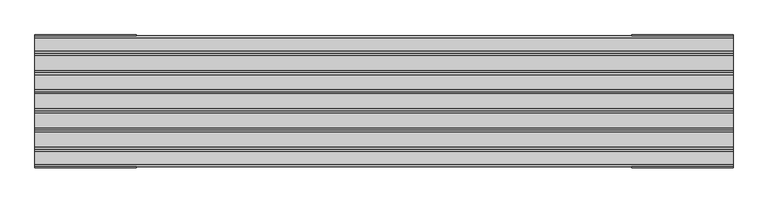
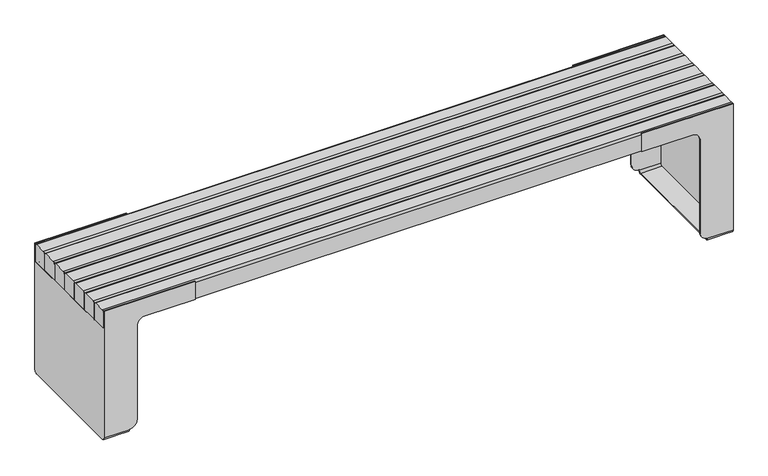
"""IFC4 building model written with IfcOpenShell, lengths in millimetres: furniture geometry, Roros Produkter - Nobel - Bench - 32680 : Roros Produkter - Nobel - Bench - 32680."""

from ifc_helpers import new_model, si_unit, point, frame, frame_2d, origin, place, context, project, spatial, polyline, circle_curve, trimmed, segment, composite_curve, outline, extrude, source, transform, mapped, element, save
from ifc_brep_helpers import plane_surface, cylinder_surface, revolved_surface, advanced_brep


def furniture_72da6de6(model_context):
    return source(origin(), model_context, "Body", "SolidModel", [
        advanced_brep(
        [(920.0000032, 190.4999943, 10.0), (920.0000032, 180.4999943, 0.0), (920.0000032, -180.5000057, 0.0), (920.0000032, -190.5000057, 10.0), (920.0000032, -190.5000057, 11.2), (920.0000032, -187.5000057, 11.2), (920.0000032, -187.5000057, 9.6519473), (920.0000032, -180.5000057, 2.6519473), (920.0000032, 180.4999958, 2.6519473), (920.0000032, 187.4999958, 9.6519473), (920.0000032, 187.4999958, 11.2), (920.0000032, 190.4999943, 11.2), (920.0000032, 180.4999958, 372.0000043), (920.0000032, -180.5000057, 372.0000043), (920.0000032, -187.5000057, 365.0000043), (920.0000032, -187.4999958, 375.0000029), (920.0000032, 187.4999958, 375.0000029), (920.0000032, 187.4999958, 365.0000043), (1000.0000075, 190.5000057, 435.0000106), (1000.0000075, 187.4999958, 435.0000106), (1000.0000075, 187.4999958, 375.0000029), (1000.0000075, -187.4999958, 375.0000029), (1000.0000075, -187.4999958, 435.0000106), (1000.0000075, -190.5000057, 435.0000106), (1000.0000075, -190.5000057, 10.0), (1000.0000075, -180.5000057, 0.0), (1000.0000075, 180.4999943, 0.0), (1000.0000075, 190.4999943, 10.0), (895.000003, 190.4999943, 36.2000001), (895.000003, 190.4999943, 350.0000029), (870.000003, 190.4999943, 375.0000029), (710.0000125, 190.4999943, 375.0000029), (710.0000125, 190.4999943, 435.0000106), (710.0000125, -190.5000057, 435.0000106), (710.0000125, -190.5000057, 375.0000029), (870.000003, -190.5000057, 375.0000029), (895.000003, -190.5000057, 350.0000029), (895.000003, -190.5000057, 36.2000001), (895.000003, -187.4999958, 36.2000001), (895.000003, -187.4999958, 350.0000029), (870.000003, -187.4999958, 375.0000029), (710.0000125, -187.4999958, 375.0000029), (710.0000125, -187.4999958, 435.0000106), (895.000003, 187.4999958, 36.2000001), (895.000003, 187.4999958, 350.0000029), (870.000003, 187.4999958, 375.0000029), (710.0000125, 187.4999958, 375.0000029), (710.0000125, 187.4999958, 435.0000106), (989.0000078, 187.4999958, 365.0000043), (989.0000078, 187.4999958, 9.6519473), (989.0000078, 180.4999958, 2.6519473), (989.0000078, -180.5000057, 2.6519473), (989.0000078, -187.5000057, 9.6519473), (989.0000078, -187.5000057, 365.0000043), (989.0000078, -180.5000057, 372.0000043), (989.0000078, 180.4999958, 372.0000043)],
        [
            (0, 1, circle_curve(frame((920.0000032, 180.4999943, 10.0), z_axis=(-1.0, 0.0, 0.0), x_axis=(0.0, -1.0, 0.0)), 10.0)),
            (1, 2),
            (2, 3, circle_curve(frame((920.0000032, -180.5000057, 10.0), z_axis=(-1.0, 0.0, 0.0), x_axis=(0.0, -1.0, 0.0)), 10.0)),
            (3, 4),
            (4, 5),
            (5, 6),
            (6, 7, circle_curve(frame((920.0000032, -180.5000057, 9.6519473), z_axis=(1.0, 0.0, 0.0), x_axis=(0.0, -1.0, 0.0)), 7.0)),
            (7, 8),
            (8, 9, circle_curve(frame((920.0000032, 180.4999958, 9.6519473), z_axis=(1.0, 0.0, 0.0), x_axis=(0.0, -1.0, 0.0)), 7.0)),
            (9, 10),
            (10, 11),
            (11, 0),
            (12, 13),
            (13, 14, circle_curve(frame((920.0000032, -180.5000057, 365.0000043), z_axis=(1.0, 0.0, 0.0), x_axis=(0.0, -1.0, 0.0)), 7.0)),
            (14, 15),
            (15, 16),
            (16, 17),
            (17, 12, circle_curve(frame((920.0000032, 180.4999958, 365.0000043), z_axis=(1.0, 0.0, 0.0), x_axis=(0.0, -1.0, 0.0)), 7.0)),
            (18, 19),
            (19, 20),
            (20, 21),
            (21, 22),
            (22, 23),
            (23, 24),
            (24, 25, circle_curve(frame((1000.0000075, -180.5000057, 10.0), z_axis=(1.0, 0.0, 0.0), x_axis=(0.0, -1.0, 0.0)), 10.0)),
            (25, 26),
            (26, 27, circle_curve(frame((1000.0000075, 180.4999943, 10.0), z_axis=(1.0, 0.0, 0.0), x_axis=(0.0, -1.0, 0.0)), 10.0)),
            (27, 18),
            (27, 0),
            (11, 28, circle_curve(frame((920.0000032, 190.4999943, 36.2000001), z_axis=(0.0, 1.0, 0.0), x_axis=(-1.0, 0.0, 0.0)), 25.0000002)),
            (28, 29),
            (29, 30, circle_curve(frame((870.000003, 190.4999943, 350.0000029), z_axis=(0.0, -1.0, 0.0), x_axis=(-1.0, 0.0, 0.0)), 25.0)),
            (30, 31),
            (31, 32),
            (32, 18),
            (15, 21),
            (20, 16),
            (3, 24),
            (23, 33),
            (33, 34),
            (34, 35),
            (35, 36, circle_curve(frame((870.000003, -190.5000057, 350.0000029), z_axis=(0.0, 1.0, 0.0), x_axis=(-1.0, 0.0, 0.0)), 25.0)),
            (36, 37),
            (37, 4, circle_curve(frame((920.0000032, -190.5000057, 36.2000001), z_axis=(0.0, -1.0, 0.0), x_axis=(-1.0, 0.0, 0.0)), 25.0000002)),
            (2, 25),
            (1, 26),
            (37, 38),
            (38, 5, circle_curve(frame((920.0000032, -187.4999958, 36.2000001), z_axis=(0.0, -1.0, 0.0), x_axis=(-1.0, 0.0, 0.0)), 25.0000002)),
            (36, 39),
            (39, 38),
            (35, 40),
            (40, 39, circle_curve(frame((870.000003, -187.4999958, 350.0000029), z_axis=(0.0, 1.0, 0.0), x_axis=(-1.0, 0.0, 0.0)), 25.0)),
            (34, 41),
            (41, 40),
            (33, 42),
            (42, 41),
            (22, 42),
            (10, 43, circle_curve(frame((920.0000032, 187.4999958, 36.2000001), z_axis=(0.0, 1.0, 0.0), x_axis=(-1.0, 0.0, 0.0)), 25.0000002)),
            (43, 28),
            (43, 44),
            (44, 29),
            (44, 45, circle_curve(frame((870.000003, 187.4999958, 350.0000029), z_axis=(0.0, -1.0, 0.0), x_axis=(-1.0, 0.0, 0.0)), 25.0)),
            (45, 30),
            (45, 46),
            (46, 31),
            (46, 47),
            (47, 32),
            (47, 19),
            (48, 49),
            (49, 50, circle_curve(frame((989.0000078, 180.4999958, 9.6519473), z_axis=(-1.0, 0.0, 0.0), x_axis=(0.0, -1.0, 0.0)), 7.0)),
            (50, 51),
            (51, 52, circle_curve(frame((989.0000078, -180.5000057, 9.6519473), z_axis=(-1.0, 0.0, 0.0), x_axis=(0.0, -1.0, 0.0)), 7.0)),
            (52, 53),
            (53, 54, circle_curve(frame((989.0000078, -180.5000057, 365.0000043), z_axis=(-1.0, 0.0, 0.0), x_axis=(0.0, -1.0, 0.0)), 7.0)),
            (54, 55),
            (55, 48, circle_curve(frame((989.0000078, 180.4999958, 365.0000043), z_axis=(-1.0, 0.0, 0.0), x_axis=(0.0, -1.0, 0.0)), 7.0)),
            (54, 13),
            (12, 55),
            (52, 6),
            (14, 53),
            (50, 8),
            (7, 51),
            (48, 17),
            (9, 49),
        ],
        [
            plane_surface(frame((920.0000032, 170.4999943, 10.0), z_axis=(-1.0, 0.0, 0.0), x_axis=(0.0, 0.0, 1.0))),
            plane_surface(frame((1000.0000075, 170.4999943, 10.0), z_axis=(1.0, 0.0, 0.0), x_axis=(0.0, 0.0, -1.0))),
            plane_surface(frame((920.0000032, 190.4999943, 375.0000029), z_axis=(0.0, 1.0, 0.0), x_axis=(1.0, 0.0, 0.0))),
            plane_surface(frame((920.0000032, -190.5000057, 375.0000029), z_axis=(0.0, 0.0, 1.0), x_axis=(1.0, 0.0, 0.0))),
            plane_surface(frame((920.0000032, -190.5000057, 10.0), z_axis=(0.0, -1.0, 0.0), x_axis=(1.0, 0.0, 0.0))),
            cylinder_surface(frame((1000.0000075, -180.5000057, 10.0), z_axis=(-1.0, 0.0, 0.0), x_axis=(0.0, -1.0, 0.0)), 10.0),
            plane_surface(frame((920.0000032, 180.4999943, 0.0), z_axis=(0.0, 0.0, -1.0), x_axis=(1.0, 0.0, 0.0))),
            cylinder_surface(frame((1000.0000075, 180.4999943, 10.0), z_axis=(-1.0, 0.0, 0.0), x_axis=(0.0, -1.0, 0.0)), 10.0),
            cylinder_surface(frame((920.0000032, -187.4999958, 36.2000001), z_axis=(0.0, -1.0, 0.0), x_axis=(-1.0, 0.0, 0.0)), 25.0000002),
            plane_surface(frame((895.000003, -190.5000057, 350.0000029), z_axis=(-1.0, 0.0, 0.0), x_axis=(0.0, 1.0, 0.0))),
            revolved_surface(polyline([(845.000003, -187.4999958, 350.0000029), (845.000003, -190.5000057, 350.0000029)]), (870.000003, -187.4999958, 350.0000029), (0.0, 1.0, 0.0)),
            plane_surface(frame((710.0000125, -190.5000057, 375.0000029), z_axis=(0.0, 0.0, -1.0), x_axis=(0.0, 1.0, 0.0))),
            plane_surface(frame((710.0000125, -190.5000057, 435.0000106), z_axis=(-1.0, 0.0, 0.0), x_axis=(0.0, 1.0, 0.0))),
            plane_surface(frame((1000.0000075, -190.5000057, 435.0000106), z_axis=(0.0, 0.0, 1.0), x_axis=(0.0, 1.0, 0.0))),
            cylinder_surface(frame((920.0000032, 187.4999958, 36.2000001), z_axis=(0.0, 1.0, 0.0), x_axis=(-1.0, 0.0, 0.0)), 25.0000002),
            plane_surface(frame((895.000003, 190.5000057, 36.2000001), z_axis=(-1.0, 0.0, 0.0), x_axis=(0.0, -1.0, 0.0))),
            revolved_surface(polyline([(845.000003, 187.4999958, 350.0000029), (845.000003, 190.4999943, 350.0000029)]), (870.000003, 187.4999958, 350.0000029), (0.0, -1.0, 0.0)),
            plane_surface(frame((870.000003, 190.5000057, 375.0000029), z_axis=(0.0, 0.0, -1.0), x_axis=(0.0, -1.0, 0.0))),
            plane_surface(frame((710.0000125, 190.5000057, 375.0000029), z_axis=(-1.0, 0.0, 0.0), x_axis=(0.0, -1.0, 0.0))),
            plane_surface(frame((710.0000125, 190.5000057, 435.0000106), z_axis=(0.0, 0.0, 1.0), x_axis=(0.0, -1.0, 0.0))),
            plane_surface(frame((989.0000078, 187.4999958, 11.3137092), z_axis=(-1.0, 0.0, 0.0), x_axis=(0.0, 0.0, 1.0))),
            plane_surface(frame((870.0000119, -180.5000057, 372.0000043), z_axis=(0.0, 0.0, -1.0), x_axis=(1.0, 0.0, 0.0))),
            plane_surface(frame((870.0000119, -187.5000057, 9.6519473), z_axis=(0.0, 1.0, 0.0), x_axis=(1.0, 0.0, 0.0))),
            plane_surface(frame((870.0000119, 180.4999958, 2.6519473), z_axis=(0.0, 0.0, 1.0), x_axis=(1.0, 0.0, 0.0))),
            plane_surface(frame((870.0000119, 187.4999958, 365.0000043), z_axis=(0.0, -1.0, 0.0), x_axis=(1.0, 0.0, 0.0))),
            revolved_surface(polyline([(920.0000032, 173.4999958, 365.0000043), (989.0000078, 173.4999958, 365.0000043)]), (989.0000078, 180.4999958, 365.0000043), (-1.0, 0.0, 0.0)),
            revolved_surface(polyline([(920.0000032, -187.5000057, 365.0000043), (989.0000078, -187.5000057, 365.0000043)]), (989.0000078, -180.5000057, 365.0000043), (-1.0, 0.0, 0.0)),
            revolved_surface(polyline([(920.0000032, -187.5000057, 9.6519473), (989.0000078, -187.5000057, 9.6519473)]), (989.0000078, -180.5000057, 9.6519473), (-1.0, 0.0, 0.0)),
            revolved_surface(polyline([(920.0000032, 173.4999958, 9.6519473), (989.0000078, 173.4999958, 9.6519473)]), (989.0000078, 180.4999958, 9.6519473), (-1.0, 0.0, 0.0)),
        ],
        [
            (0, [[1, 2, 3, 4, 5, 6, 7, 8, 9, 10, 11, 12]]),
            (0, [[13, 14, 15, 16, 17, 18]]),
            (1, [[19, 20, 21, 22, 23, 24, 25, 26, 27, 28]]),
            (2, [[-28, 29, -12, 30, 31, 32, 33, 34, 35]]),
            (3, [[36, -21, 37, -16]]),
            (4, [[38, -24, 39, 40, 41, 42, 43, 44, -4]]),
            (5, [[-3, 45, -25, -38]]),
            (6, [[-2, 46, -26, -45]]),
            (7, [[-1, -29, -27, -46]]),
            (8, [[-44, 47, 48, -5]]),
            (9, [[-43, 49, 50, -47]]),
            (10, [[-42, 51, 52, -49]]),
            (11, [[-41, 53, 54, -51]]),
            (12, [[-40, 55, 56, -53]]),
            (13, [[-39, -23, 57, -55]]),
            (14, [[-30, -11, 58, 59]]),
            (15, [[-31, -59, 60, 61]]),
            (16, [[-32, -61, 62, 63]]),
            (17, [[-33, -63, 64, 65]]),
            (18, [[-34, -65, 66, 67]]),
            (19, [[-35, -67, 68, -19]]),
            (20, [[69, 70, 71, 72, 73, 74, 75, 76]]),
            (21, [[-75, 77, -13, 78]]),
            (22, [[-73, 79, -6, -48, -50, -52, -54, -56, -57, -22, -36, -15, 80]]),
            (23, [[-71, 81, -8, 82]]),
            (24, [[-69, 83, -17, -37, -20, -68, -66, -64, -62, -60, -58, -10, 84]]),
            (25, [[-76, -78, -18, -83]]),
            (26, [[-74, -80, -14, -77]]),
            (27, [[-72, -82, -7, -79]]),
            (28, [[-70, -84, -9, -81]]),
        ],
    ),
        advanced_brep(
        [(-920.0000032, -190.5000057, 10.0), (-920.0000032, -180.5000057, 0.0), (-920.0000032, 180.4999943, 0.0), (-920.0000032, 190.4999943, 10.0), (-920.0000032, 190.4999943, 11.2), (-920.0000032, 187.4999958, 11.2), (-920.0000032, 187.4999958, 9.6519473), (-920.0000032, 180.4999958, 2.6519473), (-920.0000032, -180.5000057, 2.6519473), (-920.0000032, -187.5000057, 9.6519473), (-920.0000032, -187.5000057, 11.2), (-920.0000032, -190.5000057, 11.2), (-920.0000032, -180.5000057, 372.0000043), (-920.0000032, 180.4999958, 372.0000043), (-920.0000032, 187.4999958, 365.0000043), (-920.0000032, 187.4999958, 375.0000029), (-920.0000032, -187.4999958, 375.0000029), (-920.0000032, -187.4999958, 365.0000043), (-1000.0000075, 190.4999943, 10.0), (-1000.0000075, 180.4999943, 0.0), (-1000.0000075, -180.5000057, 0.0), (-1000.0000075, -190.5000057, 10.0), (-1000.0000075, -190.5000057, 435.0000106), (-1000.0000075, -187.4999958, 435.0000106), (-1000.0000075, -187.4999958, 375.0000029), (-1000.0000075, 187.4999958, 375.0000029), (-1000.0000075, 187.4999958, 435.0000106), (-1000.0000075, 190.5000057, 435.0000106), (-710.0000125, 190.4999943, 435.0000106), (-710.0000125, 190.4999943, 375.0000029), (-870.000003, 190.4999943, 375.0000029), (-895.000003, 190.4999943, 350.0000029), (-895.000003, 190.4999943, 36.2000001), (-895.000003, -190.5000057, 36.2000001), (-895.000003, -190.5000057, 350.0000029), (-870.000003, -190.5000057, 375.0000029), (-710.0000125, -190.5000057, 375.0000029), (-710.0000125, -190.5000057, 435.0000106), (-895.000003, -187.4999958, 36.2000001), (-895.000003, -187.4999958, 350.0000029), (-870.000003, -187.4999958, 375.0000029), (-710.0000125, -187.4999958, 375.0000029), (-710.0000125, -187.4999958, 435.0000106), (-895.000003, 187.4999958, 36.2000001), (-895.000003, 187.4999958, 350.0000029), (-870.000003, 187.4999958, 375.0000029), (-710.0000125, 187.4999958, 375.0000029), (-710.0000125, 187.4999958, 435.0000106), (-989.0000078, 187.4999958, 365.0000043), (-989.0000078, 180.4999958, 372.0000043), (-989.0000078, -180.5000057, 372.0000043), (-989.0000078, -187.5000057, 365.0000043), (-989.0000078, -187.5000057, 9.6519473), (-989.0000078, -180.5000057, 2.6519473), (-989.0000078, 180.4999958, 2.6519473), (-989.0000078, 187.4999958, 9.6519473)],
        [
            (0, 1, circle_curve(frame((-920.0000032, -180.5000057, 10.0), z_axis=(1.0, 0.0, 0.0), x_axis=(0.0, -1.0, 0.0)), 10.0)),
            (1, 2),
            (2, 3, circle_curve(frame((-920.0000032, 180.4999943, 10.0), z_axis=(1.0, 0.0, 0.0), x_axis=(0.0, -1.0, 0.0)), 10.0)),
            (3, 4),
            (4, 5),
            (5, 6),
            (6, 7, circle_curve(frame((-920.0000032, 180.4999958, 9.6519473), z_axis=(-1.0, 0.0, 0.0), x_axis=(0.0, -1.0, 0.0)), 7.0)),
            (7, 8),
            (8, 9, circle_curve(frame((-920.0000032, -180.5000057, 9.6519473), z_axis=(-1.0, 0.0, 0.0), x_axis=(0.0, -1.0, 0.0)), 7.0)),
            (9, 10),
            (10, 11),
            (11, 0),
            (12, 13),
            (13, 14, circle_curve(frame((-920.0000032, 180.4999958, 365.0000043), z_axis=(-1.0, 0.0, 0.0), x_axis=(0.0, -1.0, 0.0)), 7.0)),
            (14, 15),
            (15, 16),
            (16, 17),
            (17, 12, circle_curve(frame((-920.0000032, -180.5000057, 365.0000043), z_axis=(-1.0, 0.0, 0.0), x_axis=(0.0, -1.0, 0.0)), 7.0)),
            (18, 19, circle_curve(frame((-1000.0000075, 180.4999943, 10.0), z_axis=(-1.0, 0.0, 0.0), x_axis=(0.0, -1.0, 0.0)), 10.0)),
            (19, 20),
            (20, 21, circle_curve(frame((-1000.0000075, -180.5000057, 10.0), z_axis=(-1.0, 0.0, 0.0), x_axis=(0.0, -1.0, 0.0)), 10.0)),
            (21, 22),
            (22, 23),
            (23, 24),
            (24, 25),
            (25, 26),
            (26, 27),
            (27, 18),
            (27, 28),
            (28, 29),
            (29, 30),
            (30, 31, circle_curve(frame((-870.000003, 190.4999943, 350.0000029), z_axis=(0.0, -1.0, 0.0), x_axis=(1.0, 0.0, 0.0)), 25.0)),
            (31, 32),
            (32, 4, circle_curve(frame((-920.0000032, 190.4999943, 36.2000001), z_axis=(0.0, 1.0, 0.0), x_axis=(1.0, 0.0, 0.0)), 25.0000002)),
            (3, 18),
            (24, 16),
            (15, 25),
            (21, 0),
            (11, 33, circle_curve(frame((-920.0000032, -190.5000057, 36.2000001), z_axis=(0.0, -1.0, 0.0), x_axis=(1.0, 0.0, 0.0)), 25.0000002)),
            (33, 34),
            (34, 35, circle_curve(frame((-870.000003, -190.5000057, 350.0000029), z_axis=(0.0, 1.0, 0.0), x_axis=(1.0, 0.0, 0.0)), 25.0)),
            (35, 36),
            (36, 37),
            (37, 22),
            (20, 1),
            (19, 2),
            (10, 38, circle_curve(frame((-920.0000032, -187.4999958, 36.2000001), z_axis=(0.0, -1.0, 0.0), x_axis=(1.0, 0.0, 0.0)), 25.0000002)),
            (38, 33),
            (38, 39),
            (39, 34),
            (39, 40, circle_curve(frame((-870.000003, -187.4999958, 350.0000029), z_axis=(0.0, 1.0, 0.0), x_axis=(1.0, 0.0, 0.0)), 25.0)),
            (40, 35),
            (40, 41),
            (41, 36),
            (41, 42),
            (42, 37),
            (42, 23),
            (32, 43),
            (43, 5, circle_curve(frame((-920.0000032, 187.4999958, 36.2000001), z_axis=(0.0, 1.0, 0.0), x_axis=(1.0, 0.0, 0.0)), 25.0000002)),
            (31, 44),
            (44, 43),
            (30, 45),
            (45, 44, circle_curve(frame((-870.000003, 187.4999958, 350.0000029), z_axis=(0.0, -1.0, 0.0), x_axis=(1.0, 0.0, 0.0)), 25.0)),
            (29, 46),
            (46, 45),
            (28, 47),
            (47, 46),
            (26, 47),
            (48, 49, circle_curve(frame((-989.0000078, 180.4999958, 365.0000043), z_axis=(1.0, 0.0, 0.0), x_axis=(0.0, -1.0, 0.0)), 7.0)),
            (49, 50),
            (50, 51, circle_curve(frame((-989.0000078, -180.5000057, 365.0000043), z_axis=(1.0, 0.0, 0.0), x_axis=(0.0, -1.0, 0.0)), 7.0)),
            (51, 52),
            (52, 53, circle_curve(frame((-989.0000078, -180.5000057, 9.6519473), z_axis=(1.0, 0.0, 0.0), x_axis=(0.0, -1.0, 0.0)), 7.0)),
            (53, 54),
            (54, 55, circle_curve(frame((-989.0000078, 180.4999958, 9.6519473), z_axis=(1.0, 0.0, 0.0), x_axis=(0.0, -1.0, 0.0)), 7.0)),
            (55, 48),
            (49, 13),
            (12, 50),
            (51, 17),
            (9, 52),
            (53, 8),
            (7, 54),
            (55, 6),
            (14, 48),
        ],
        [
            plane_surface(frame((-920.0000032, 190.4999943, 375.0000029), z_axis=(1.0, 0.0, 0.0), x_axis=(0.0, 0.0, 1.0))),
            plane_surface(frame((-1000.0000075, 190.4999943, 375.0000029), z_axis=(-1.0, 0.0, 0.0), x_axis=(0.0, 0.0, -1.0))),
            plane_surface(frame((-920.0000032, 190.4999943, 10.0), z_axis=(0.0, 1.0, 0.0), x_axis=(-1.0, 0.0, 0.0))),
            plane_surface(frame((-920.0000032, 190.4999943, 375.0000029), z_axis=(0.0, 0.0, 1.0), x_axis=(-1.0, 0.0, 0.0))),
            plane_surface(frame((-920.0000032, -190.5000057, 375.0000029), z_axis=(0.0, -1.0, 0.0), x_axis=(-1.0, 0.0, 0.0))),
            cylinder_surface(frame((-1000.0000075, -180.5000057, 10.0), z_axis=(1.0, 0.0, 0.0), x_axis=(0.0, -1.0, 0.0)), 10.0),
            plane_surface(frame((-920.0000032, -180.5000057, 0.0), z_axis=(0.0, 0.0, -1.0), x_axis=(-1.0, 0.0, 0.0))),
            cylinder_surface(frame((-1000.0000075, 180.4999943, 10.0), z_axis=(1.0, 0.0, 0.0), x_axis=(0.0, -1.0, 0.0)), 10.0),
            cylinder_surface(frame((-920.0000032, -187.4999958, 36.2000001), z_axis=(0.0, -1.0, 0.0), x_axis=(1.0, 0.0, 0.0)), 25.0000002),
            plane_surface(frame((-895.000003, -190.5000057, 36.2000001), z_axis=(1.0, 0.0, 0.0), x_axis=(0.0, 1.0, 0.0))),
            revolved_surface(polyline([(-845.000003, -187.4999958, 350.0000029), (-845.000003, -190.5000057, 350.0000029)]), (-870.000003, -187.4999958, 350.0000029), (0.0, 1.0, 0.0)),
            plane_surface(frame((-870.000003, -190.5000057, 375.0000029), z_axis=(0.0, 0.0, -1.0), x_axis=(0.0, 1.0, 0.0))),
            plane_surface(frame((-710.0000125, -190.5000057, 375.0000029), z_axis=(1.0, 0.0, 0.0), x_axis=(0.0, 1.0, 0.0))),
            plane_surface(frame((-710.0000125, -190.5000057, 435.0000106), z_axis=(0.0, 0.0, 1.0), x_axis=(0.0, 1.0, 0.0))),
            cylinder_surface(frame((-920.0000032, 187.4999958, 36.2000001), z_axis=(0.0, 1.0, 0.0), x_axis=(1.0, 0.0, 0.0)), 25.0000002),
            plane_surface(frame((-895.000003, 190.5000057, 350.0000029), z_axis=(1.0, 0.0, 0.0), x_axis=(0.0, -1.0, 0.0))),
            revolved_surface(polyline([(-845.000003, 187.4999958, 350.0000029), (-845.000003, 190.4999943, 350.0000029)]), (-870.000003, 187.4999958, 350.0000029), (0.0, -1.0, 0.0)),
            plane_surface(frame((-710.0000125, 190.5000057, 375.0000029), z_axis=(0.0, 0.0, -1.0), x_axis=(0.0, -1.0, 0.0))),
            plane_surface(frame((-710.0000125, 190.5000057, 435.0000106), z_axis=(1.0, 0.0, 0.0), x_axis=(0.0, -1.0, 0.0))),
            plane_surface(frame((-1000.0000075, 190.5000057, 435.0000106), z_axis=(0.0, 0.0, 1.0), x_axis=(0.0, -1.0, 0.0))),
            plane_surface(frame((-989.0000078, 173.4999958, 365.0000043), z_axis=(1.0, 0.0, 0.0), x_axis=(0.0, 0.0, 1.0))),
            plane_surface(frame((-870.0000119, 180.4999958, 372.0000043), z_axis=(0.0, 0.0, -1.0), x_axis=(-1.0, 0.0, 0.0))),
            plane_surface(frame((-870.0000119, -187.5000057, 365.0000043), z_axis=(0.0, 1.0, 0.0), x_axis=(-1.0, 0.0, 0.0))),
            plane_surface(frame((-870.0000119, -180.5000057, 2.6519473), z_axis=(0.0, 0.0, 1.0), x_axis=(-1.0, 0.0, 0.0))),
            plane_surface(frame((-870.0000119, 187.4999958, 9.6519473), z_axis=(0.0, -1.0, 0.0), x_axis=(-1.0, 0.0, 0.0))),
            revolved_surface(polyline([(-920.0000032, 173.4999958, 365.0000043), (-989.0000078, 173.4999958, 365.0000043)]), (-989.0000078, 180.4999958, 365.0000043), (1.0, 0.0, 0.0)),
            revolved_surface(polyline([(-920.0000032, -187.5000057, 365.0000043), (-989.0000078, -187.5000057, 365.0000043)]), (-989.0000078, -180.5000057, 365.0000043), (1.0, 0.0, 0.0)),
            revolved_surface(polyline([(-920.0000032, -187.5000057, 9.6519473), (-989.0000078, -187.5000057, 9.6519473)]), (-989.0000078, -180.5000057, 9.6519473), (1.0, 0.0, 0.0)),
            revolved_surface(polyline([(-920.0000032, 173.4999958, 9.6519473), (-989.0000078, 173.4999958, 9.6519473)]), (-989.0000078, 180.4999958, 9.6519473), (1.0, 0.0, 0.0)),
        ],
        [
            (0, [[1, 2, 3, 4, 5, 6, 7, 8, 9, 10, 11, 12]]),
            (0, [[13, 14, 15, 16, 17, 18]]),
            (1, [[19, 20, 21, 22, 23, 24, 25, 26, 27, 28]]),
            (2, [[-28, 29, 30, 31, 32, 33, 34, -4, 35]]),
            (3, [[36, -16, 37, -25]]),
            (4, [[38, -12, 39, 40, 41, 42, 43, 44, -22]]),
            (5, [[-1, -38, -21, 45]]),
            (6, [[-2, -45, -20, 46]]),
            (7, [[-3, -46, -19, -35]]),
            (8, [[-39, -11, 47, 48]]),
            (9, [[-40, -48, 49, 50]]),
            (10, [[-41, -50, 51, 52]]),
            (11, [[-42, -52, 53, 54]]),
            (12, [[-43, -54, 55, 56]]),
            (13, [[-44, -56, 57, -23]]),
            (14, [[-34, 58, 59, -5]]),
            (15, [[-33, 60, 61, -58]]),
            (16, [[-32, 62, 63, -60]]),
            (17, [[-31, 64, 65, -62]]),
            (18, [[-30, 66, 67, -64]]),
            (19, [[-29, -27, 68, -66]]),
            (20, [[69, 70, 71, 72, 73, 74, 75, 76]]),
            (21, [[-70, 77, -13, 78]]),
            (22, [[-72, 79, -17, -36, -24, -57, -55, -53, -51, -49, -47, -10, 80]]),
            (23, [[-74, 81, -8, 82]]),
            (24, [[-76, 83, -6, -59, -61, -63, -65, -67, -68, -26, -37, -15, 84]]),
            (25, [[-69, -84, -14, -77]]),
            (26, [[-71, -78, -18, -79]]),
            (27, [[-73, -80, -9, -81]]),
            (28, [[-75, -82, -7, -83]]),
        ],
    ),
        extrude(outline(composite_curve([segment(trimmed(circle_curve(frame_2d((88.4999913, 429.0000106)), 6.0), [point((82.4999913, 429.0000106))], [point((88.4999913, 435.0000106))], False, "CARTESIAN"), True, "CONTINUOUS"), segment(polyline([(88.4999913, 435.0000106), (131.4849653, 435.0000106)]), True, "CONTINUOUS"), segment(trimmed(circle_curve(frame_2d((131.4849653, 428.9849806)), 6.01503), [point((131.4849653, 435.0000106))], [point((137.4999954, 428.9849806))], False, "CARTESIAN"), True, "CONTINUOUS"), segment(polyline([(137.4999954, 428.9849806), (137.4999954, 375.0000029), (82.4999913, 375.0000029), (82.4999913, 429.0000106)]), True, "CONTINUOUS")], self_intersect=False)), frame((-1000.0000075, 0.0, 0.0), z_axis=(1.0, 0.0, 0.0), x_axis=(0.0, 1.0, 0.0)), (0.0, 0.0, 1.0), 2000.0000153),
        extrude(outline(composite_curve([segment(trimmed(circle_curve(frame_2d((-21.4999963, 429.0000106)), 6.0), [point((-27.4999963, 429.0000106))], [point((-21.4999963, 435.0000106))], False, "CARTESIAN"), True, "CONTINUOUS"), segment(polyline([(-21.4999963, 435.0000106), (21.4849663, 435.0000106)]), True, "CONTINUOUS"), segment(trimmed(circle_curve(frame_2d((21.4849663, 428.9849806)), 6.01503), [point((21.4849663, 435.0000106))], [point((27.4999963, 428.9849806))], False, "CARTESIAN"), True, "CONTINUOUS"), segment(polyline([(27.4999963, 428.9849806), (27.4999963, 375.0000029), (-27.4999963, 375.0000029), (-27.4999963, 429.0000106)]), True, "CONTINUOUS")], self_intersect=False)), frame((-1000.0000075, 0.0, 0.0), z_axis=(1.0, 0.0, 0.0), x_axis=(0.0, 1.0, 0.0)), (0.0, 0.0, 1.0), 2000.0000153),
        extrude(outline(composite_curve([segment(trimmed(circle_curve(frame_2d((-131.4999954, 429.0000106)), 6.0), [point((-137.4999954, 429.0000106))], [point((-131.4999954, 435.0000106))], False, "CARTESIAN"), True, "CONTINUOUS"), segment(polyline([(-131.4999954, 435.0000106), (-88.5150214, 435.0000106)]), True, "CONTINUOUS"), segment(trimmed(circle_curve(frame_2d((-88.5150214, 428.9849806)), 6.01503), [point((-88.5150214, 435.0000106))], [point((-82.4999913, 428.9849806))], False, "CARTESIAN"), True, "CONTINUOUS"), segment(polyline([(-82.4999913, 428.9849806), (-82.4999913, 375.0000029), (-137.4999954, 375.0000029), (-137.4999954, 429.0000106)]), True, "CONTINUOUS")], self_intersect=False)), frame((-1000.0000075, 0.0, 0.0), z_axis=(1.0, 0.0, 0.0), x_axis=(0.0, 1.0, 0.0)), (0.0, 0.0, 1.0), 2000.0000153),
        extrude(outline(composite_curve([segment(trimmed(circle_curve(frame_2d((143.4999954, 429.0000106)), 6.0), [point((137.4999954, 429.0000106))], [point((143.4999954, 435.0000106))], False, "CARTESIAN"), True, "CONTINUOUS"), segment(polyline([(143.4999954, 435.0000106), (181.4849657, 435.0000106)]), True, "CONTINUOUS"), segment(trimmed(circle_curve(frame_2d((181.4849657, 428.9849806)), 6.01503), [point((181.4849657, 435.0000106))], [point((187.4999958, 428.9849806))], False, "CARTESIAN"), True, "CONTINUOUS"), segment(polyline([(187.4999958, 428.9849806), (187.4999958, 375.0000029), (137.4999954, 375.0000029), (137.4999954, 429.0000106)]), True, "CONTINUOUS")], self_intersect=False)), frame((-1000.0000075, 0.0, 0.0), z_axis=(1.0, 0.0, 0.0), x_axis=(0.0, 1.0, 0.0)), (0.0, 0.0, 1.0), 2000.0000153),
        extrude(outline(composite_curve([segment(trimmed(circle_curve(frame_2d((76.4999913, 429.0000106)), 6.0), [point((76.4999913, 435.0000106))], [point((82.4999913, 429.0000106))], False, "CARTESIAN"), True, "CONTINUOUS"), segment(polyline([(82.4999913, 429.0000106), (82.4999913, 375.0000029), (27.4999963, 375.0000029), (27.4999963, 429.0000106)]), True, "CONTINUOUS"), segment(trimmed(circle_curve(frame_2d((33.4999963, 429.0000106)), 6.0), [point((27.4999963, 429.0000106))], [point((33.4999963, 435.0000106))], False, "CARTESIAN"), True, "CONTINUOUS"), segment(polyline([(33.4999963, 435.0000106), (76.4999913, 435.0000106)]), True, "CONTINUOUS")], self_intersect=False)), frame((-1000.0000075, 0.0, 0.0), z_axis=(1.0, 0.0, 0.0), x_axis=(0.0, 1.0, 0.0)), (0.0, 0.0, 1.0), 2000.0000153),
        extrude(outline(composite_curve([segment(polyline([(-27.4999963, 429.0000106), (-27.4999963, 375.0000029), (-82.4999913, 375.0000029), (-82.4999913, 429.0000106)]), True, "CONTINUOUS"), segment(trimmed(circle_curve(frame_2d((-76.4999913, 429.0000106)), 6.0), [point((-82.4999913, 429.0000106))], [point((-76.4999913, 435.0000106))], False, "CARTESIAN"), True, "CONTINUOUS"), segment(polyline([(-76.4999913, 435.0000106), (-33.4999963, 435.0000106)]), True, "CONTINUOUS"), segment(trimmed(circle_curve(frame_2d((-33.4999963, 429.0000106)), 6.0), [point((-33.4999963, 435.0000106))], [point((-27.4999963, 429.0000106))], False, "CARTESIAN"), True, "CONTINUOUS")], self_intersect=False)), frame((-1000.0000075, 0.0, 0.0), z_axis=(1.0, 0.0, 0.0), x_axis=(0.0, 1.0, 0.0)), (0.0, 0.0, 1.0), 2000.0000153),
        extrude(outline(composite_curve([segment(polyline([(-137.4999954, 429.0000106), (-137.4999954, 375.0000029), (-187.4999958, 375.0000029), (-187.4999958, 429.0000106)]), True, "CONTINUOUS"), segment(trimmed(circle_curve(frame_2d((-181.4999958, 429.0000106)), 6.0), [point((-187.4999958, 429.0000106))], [point((-181.4999958, 435.0000106))], False, "CARTESIAN"), True, "CONTINUOUS"), segment(polyline([(-181.4999958, 435.0000106), (-143.4999954, 435.0000106)]), True, "CONTINUOUS"), segment(trimmed(circle_curve(frame_2d((-143.4999954, 429.0000106)), 6.0), [point((-143.4999954, 435.0000106))], [point((-137.4999954, 429.0000106))], False, "CARTESIAN"), True, "CONTINUOUS")], self_intersect=False)), frame((-1000.0000075, 0.0, 0.0), z_axis=(1.0, 0.0, 0.0), x_axis=(0.0, 1.0, 0.0)), (0.0, 0.0, 1.0), 2000.0000153),
    ])


if __name__ == "__main__":
    model = new_model("IFC4")
    model_context = context("Model", 3, world=origin())
    ifc_project = project(units=[si_unit("LENGTHUNIT", "METRE", prefix="MILLI")], contexts=[model_context])
    site = spatial("IfcSite", under=ifc_project)
    building = spatial("IfcBuilding", under=site)
    placement = place(None, origin())
    furniture_shape = furniture_72da6de6(model_context)
    element("IfcFurniture", 1, ObjectType="Roros Produkter - Nobel - Bench - 32680 : Roros Produkter - Nobel - Bench - 32680", at=placement, inside=building, context=model_context, shape_type="MappedRepresentation", body=[
        mapped(furniture_shape, transform((0.0, 0.0, 0.0), x_axis=(1.0, 0.0, 0.0), y_axis=(0.0, 1.0, 0.0), z_axis=(0.0, 0.0, 1.0))),
    ])
    save(model, "model.ifc")
